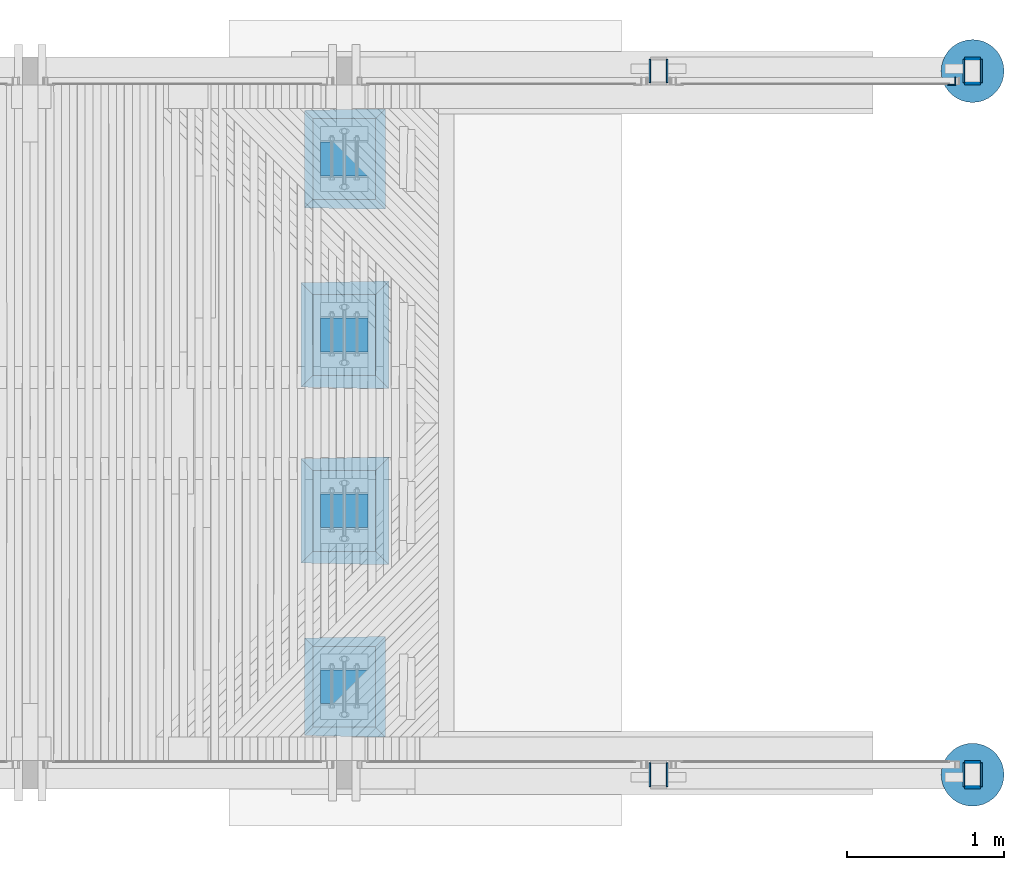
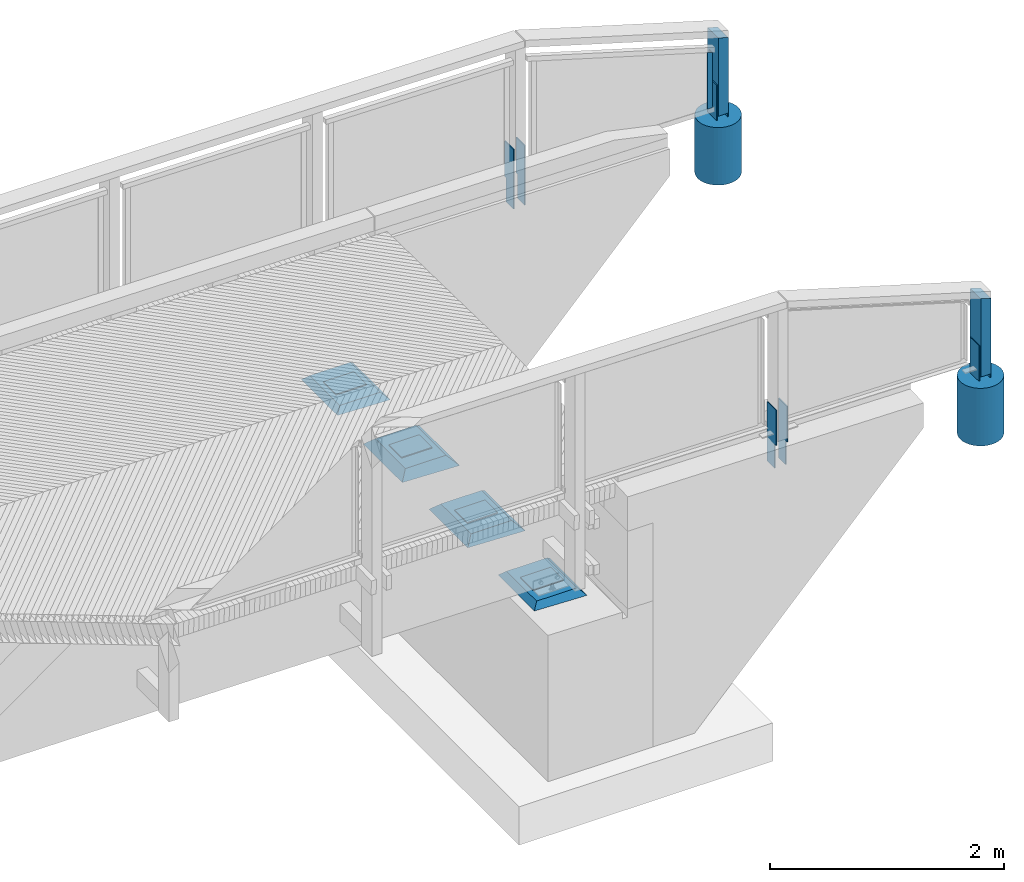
# One storey, part 13 of 65: 21 columns.
"""IFC2X3 building model written with IfcOpenShell, lengths in millimetres."""

from ifc_helpers import new_model, si_unit, frame, origin_with_axes, place, context, subcontext, project, spatial, faceted_brep, material, type_object, element, save


model = new_model("IFC2X3")

# Units and contexts
model_context = context("Model", 3, precision=1e-05, world=origin_with_axes())
body_context = subcontext(model_context, "Body", "Model", "MODEL_VIEW")
ifc_project = project(units=[si_unit("LENGTHUNIT", "METRE", prefix="MILLI"), si_unit("AREAUNIT", "SQUARE_METRE"), si_unit("VOLUMEUNIT", "CUBIC_METRE"), si_unit("MASSUNIT", "GRAM", prefix="KILO"), si_unit("TIMEUNIT", "SECOND"), si_unit("PLANEANGLEUNIT", "RADIAN"), si_unit("SOLIDANGLEUNIT", "STERADIAN"), si_unit("THERMODYNAMICTEMPERATUREUNIT", "DEGREE_CELSIUS"), si_unit("LUMINOUSINTENSITYUNIT", "LUMEN")], contexts=[model_context])

# Site, building, storey
site_placement = place(None, origin_with_axes())
site = spatial("IfcSite", under=ifc_project, at=site_placement, Name="Undefined", CompositionType="ELEMENT")
building_placement = place(site_placement, origin_with_axes())
building = spatial("IfcBuilding", under=site, at=building_placement, Name="Undefined", CompositionType="ELEMENT")
storey_placement = place(building_placement, origin_with_axes())
storey = spatial("IfcBuildingStorey", under=building, at=storey_placement, Name="Undefined", CompositionType="ELEMENT", Elevation=0.0)

# Columns
ifc_material_1 = material(Name="STEEL/AISI316")
column_type_1 = type_object("IfcColumnType", Name="PL150*10", PredefinedType="NOTDEFINED")
for number, where, z_axis, x_axis in (
    (1, (19944.9999998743, 20125.0, 2794.56000000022), (0.0, 1.0, 0.0), (0.0, 0.0, 1.0)),
    (2, (17944.9999998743, 20125.0, 2822.67000000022), (0.0, 1.0, 0.0), (0.0, 0.0, 1.0)),
):
    element("IfcColumn", number, at=place(storey_placement, frame(where, z_axis=z_axis, x_axis=x_axis)), inside=storey, type_object=column_type_1, material=ifc_material_1, Name="KAIDEPYLVÄS", ObjectType="PL150*10", context=body_context, shape_type="Brep", body=[
        faceted_brep([(250.0, 5.0, -50.0), (250.0, -5.0, -50.0), (0.0, -5.0, -50.0), (0.0, 5.0, -50.0), (250.0, 5.0, -75.0), (250.0, -5.0, -75.0), (620.0, -5.0, 75.0), (620.0, -5.0, -75.0), (620.0, 5.0, -75.0), (620.0, 5.0, 75.0), (0.0, 5.0, 75.0), (0.0, -5.0, 75.0)], [[[0, 1, 2, 3]], [[4, 5, 1, 0]], [[6, 7, 8, 9]], [[10, 11, 6, 9]], [[11, 10, 3, 2]], [[7, 6, 11, 2, 1, 5]], [[8, 7, 5, 4]], [[10, 9, 8, 4, 0, 3]]]),
    ])
for number, where, z_axis, x_axis in (
    (3, (19944.9999998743, 24605.0000000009, 2794.56000000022), (0.0, -1.0, 0.0), (0.0, 0.0, 1.0)),
    (4, (17944.9999998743, 24605.0000000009, 2822.67000000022), (0.0, -1.0, 0.0), (0.0, 0.0, 1.0)),
):
    element("IfcColumn", number, at=place(storey_placement, frame(where, z_axis=z_axis, x_axis=x_axis)), inside=storey, type_object=column_type_1, material=ifc_material_1, Name="KAIDEPYLVÄS", ObjectType="PL150*10", context=body_context, shape_type="Brep", body=[
        faceted_brep([(250.0, 5.0, -50.0), (250.0, -5.0, -50.0), (0.0, -5.0, -50.0), (0.0, 5.0, -50.0), (250.0, 5.0, -75.0), (250.0, -5.0, -75.0), (0.0, 5.0, 75.0), (0.0, -5.0, 75.0), (620.0, -5.0, 75.0), (620.0, 5.0, 75.0), (620.0, -5.0, -75.0), (620.0, 5.0, -75.0)], [[[0, 1, 2, 3]], [[4, 5, 1, 0]], [[6, 7, 8, 9]], [[8, 10, 11, 9]], [[11, 10, 5, 4]], [[6, 9, 11, 4, 0, 3]], [[7, 6, 3, 2]], [[10, 8, 7, 2, 1, 5]]]),
    ])
for number, where, z_axis, x_axis in (
    (5, (20054.9999998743, 20125.0, 2794.56000000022), (0.0, 1.0, 0.0), (0.0, 0.0, 1.0)),
    (6, (18054.9999998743, 20125.0, 2822.67000000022), (0.0, 1.0, 0.0), (0.0, 0.0, 1.0)),
):
    element("IfcColumn", number, at=place(storey_placement, frame(where, z_axis=z_axis, x_axis=x_axis)), inside=storey, type_object=column_type_1, material=ifc_material_1, Name="KAIDEPYLVÄS", ObjectType="PL150*10", context=body_context, shape_type="Brep", body=[
        faceted_brep([(250.0, 5.0, -50.0), (250.0, -5.0, -50.0), (0.0, -5.0, -50.0), (0.0, 5.0, -50.0), (250.0, 5.0, -75.0), (250.0, -5.0, -75.0), (620.0, -5.0, 75.0), (620.0, -5.0, -75.0), (620.0, 5.0, -75.0), (620.0, 5.0, 75.0), (0.0, 5.0, 75.0), (0.0, -5.0, 75.0)], [[[0, 1, 2, 3]], [[4, 5, 1, 0]], [[6, 7, 8, 9]], [[10, 11, 6, 9]], [[11, 10, 3, 2]], [[7, 6, 11, 2, 1, 5]], [[8, 7, 5, 4]], [[10, 9, 8, 4, 0, 3]]]),
    ])
for number, where, z_axis, x_axis in (
    (7, (20054.9999998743, 24605.0000000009, 2794.56000000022), (0.0, -1.0, 0.0), (0.0, 0.0, 1.0)),
    (8, (18054.9999998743, 24605.0000000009, 2822.67000000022), (0.0, -1.0, 0.0), (0.0, 0.0, 1.0)),
):
    element("IfcColumn", number, at=place(storey_placement, frame(where, z_axis=z_axis, x_axis=x_axis)), inside=storey, type_object=column_type_1, material=ifc_material_1, Name="KAIDEPYLVÄS", ObjectType="PL150*10", context=body_context, shape_type="Brep", body=[
        faceted_brep([(250.0, 5.0, -50.0), (250.0, -5.0, -50.0), (0.0, -5.0, -50.0), (0.0, 5.0, -50.0), (250.0, 5.0, -75.0), (250.0, -5.0, -75.0), (0.0, 5.0, 75.0), (0.0, -5.0, 75.0), (620.0, -5.0, 75.0), (620.0, 5.0, 75.0), (620.0, -5.0, -75.0), (620.0, 5.0, -75.0)], [[[0, 1, 2, 3]], [[4, 5, 1, 0]], [[6, 7, 8, 9]], [[8, 10, 11, 9]], [[11, 10, 5, 4]], [[6, 9, 11, 4, 0, 3]], [[7, 6, 3, 2]], [[10, 8, 7, 2, 1, 5]]]),
    ])
ifc_material_2 = material(Name="TIMBER/Timber_Undefined")
column_type_2 = type_object("IfcColumnType", Name="180*100", PredefinedType="NOTDEFINED")
column_1_placement = place(storey_placement, frame((19999.9999992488, 24604.9879080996, 3109.68000000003), z_axis=(0.0, -1.0, 0.0), x_axis=(0.0, 0.0, 1.0)))
element("IfcColumn", 9, at=column_1_placement, inside=storey, type_object=column_type_2, material=ifc_material_2, Name="KAIDEPYLVÄS", ObjectType="180*100", context=body_context, shape_type="Brep", body=[
    faceted_brep([(-15.1200000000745, 50.0, -90.0), (-15.1200000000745, 50.0, 90.0), (800.720209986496, 50.0, 90.0), (800.720209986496, 50.0, -90.0), (-15.1200000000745, -50.0, 90.0), (771.050236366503, -50.0, 90.0), (-15.1200000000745, -50.0, -90.0), (771.050236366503, -50.0, -90.0)], [[[0, 1, 2, 3]], [[1, 4, 5, 2]], [[4, 6, 7, 5]], [[6, 0, 3, 7]], [[5, 7, 3, 2]], [[6, 4, 1, 0]]]),
])
column_2_placement = place(storey_placement, frame((19999.9999992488, 20125.0120919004, 3109.68000000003), z_axis=(0.0, 1.0, 0.0), x_axis=(0.0, 0.0, 1.0)))
element("IfcColumn", 10, at=column_2_placement, inside=storey, type_object=column_type_2, material=ifc_material_2, Name="KAIDEPYLVÄS", ObjectType="180*100", context=body_context, shape_type="Brep", body=[
    faceted_brep([(-15.1200000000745, 50.0, -90.0), (-15.1200000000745, 50.0, 90.0), (771.050236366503, 50.0, 90.0), (771.050236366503, 50.0, -90.0), (-15.1200000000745, -50.0, 90.0), (800.720209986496, -50.0, 90.0), (-15.1200000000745, -50.0, -90.0), (800.720209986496, -50.0, -90.0)], [[[0, 1, 2, 3]], [[1, 4, 5, 2]], [[4, 6, 7, 5]], [[6, 0, 3, 7]], [[5, 7, 3, 2]], [[6, 4, 1, 0]]]),
])
ifc_material_3 = material(Name="CONCRETE/Concrete_Undefined")
column_type_3 = type_object("IfcColumnType", Name="D400", PredefinedType="NOTDEFINED")
column_3_placement = place(storey_placement, frame((19999.9999995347, 24604.9858270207, 2444.55999999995), z_axis=(1.0, 0.0, 0.0), x_axis=(0.0, 0.0, 1.0)))
element("IfcColumn", 11, at=column_3_placement, inside=storey, type_object=column_type_3, material=ifc_material_3, Name="COLUMN", ObjectType="D400", context=body_context, shape_type="Brep", body=[
    faceted_brep([(0.0, -200.0, 0.0), (0.0, -196.961550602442, -34.7296355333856), (600.0, -196.961550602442, -34.7296355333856), (600.0, -200.0, 0.0), (0.0, -187.93852415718, -68.4040286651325), (600.0, -187.93852415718, -68.4040286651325), (0.0, -173.205080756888, -100.0), (600.0, -173.205080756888, -100.0), (0.0, -153.208888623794, -128.55752193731), (600.0, -153.208888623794, -128.55752193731), (0.0, -128.55752193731, -153.208888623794), (600.0, -128.55752193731, -153.208888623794), (0.0, -100.0, -173.205080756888), (600.0, -100.0, -173.205080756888), (0.0, -68.4040286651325, -187.93852415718), (600.0, -68.4040286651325, -187.93852415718), (0.0, -34.7296355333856, -196.961550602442), (600.0, -34.7296355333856, -196.961550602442), (0.0, 0.0, -200.0), (600.0, 0.0, -200.0), (0.0, 34.7296355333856, -196.961550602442), (600.0, 34.7296355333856, -196.961550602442), (0.0, 68.4040286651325, -187.93852415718), (600.0, 68.4040286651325, -187.93852415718), (0.0, 100.0, -173.205080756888), (600.0, 100.0, -173.205080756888), (0.0, 128.55752193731, -153.208888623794), (600.0, 128.55752193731, -153.208888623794), (0.0, 153.208888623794, -128.55752193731), (600.0, 153.208888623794, -128.55752193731), (0.0, 173.205080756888, -100.0), (600.0, 173.205080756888, -100.0), (0.0, 187.93852415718, -68.4040286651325), (600.0, 187.93852415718, -68.4040286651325), (0.0, 196.961550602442, -34.7296355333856), (600.0, 196.961550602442, -34.7296355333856), (0.0, 200.0, 0.0), (600.0, 200.0, 0.0), (0.0, 196.961550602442, 34.7296355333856), (600.0, 196.961550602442, 34.7296355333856), (0.0, 187.93852415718, 68.4040286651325), (600.0, 187.93852415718, 68.4040286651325), (0.0, 173.205080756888, 100.0), (600.0, 173.205080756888, 100.0), (0.0, 153.208888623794, 128.55752193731), (600.0, 153.208888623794, 128.55752193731), (0.0, 128.55752193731, 153.208888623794), (600.0, 128.55752193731, 153.208888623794), (0.0, 100.0, 173.205080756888), (600.0, 100.0, 173.205080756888), (0.0, 68.4040286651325, 187.93852415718), (600.0, 68.4040286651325, 187.93852415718), (0.0, 34.7296355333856, 196.961550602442), (600.0, 34.7296355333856, 196.961550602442), (0.0, 0.0, 200.0), (600.0, 0.0, 200.0), (0.0, -34.7296355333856, 196.961550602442), (600.0, -34.7296355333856, 196.961550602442), (0.0, -68.4040286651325, 187.93852415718), (600.0, -68.4040286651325, 187.93852415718), (0.0, -100.0, 173.205080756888), (600.0, -100.0, 173.205080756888), (0.0, -128.55752193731, 153.208888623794), (600.0, -128.55752193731, 153.208888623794), (0.0, -153.208888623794, 128.55752193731), (600.0, -153.208888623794, 128.55752193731), (0.0, -173.205080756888, 100.0), (600.0, -173.205080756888, 100.0), (0.0, -187.93852415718, 68.4040286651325), (600.0, -187.93852415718, 68.4040286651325), (0.0, -196.961550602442, 34.7296355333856), (600.0, -196.961550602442, 34.7296355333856)], [[[0, 1, 2, 3]], [[1, 4, 5, 2]], [[4, 6, 7, 5]], [[6, 8, 9, 7]], [[8, 10, 11, 9]], [[10, 12, 13, 11]], [[12, 14, 15, 13]], [[14, 16, 17, 15]], [[16, 18, 19, 17]], [[18, 20, 21, 19]], [[20, 22, 23, 21]], [[22, 24, 25, 23]], [[24, 26, 27, 25]], [[26, 28, 29, 27]], [[28, 30, 31, 29]], [[30, 32, 33, 31]], [[32, 34, 35, 33]], [[34, 36, 37, 35]], [[36, 38, 39, 37]], [[38, 40, 41, 39]], [[40, 42, 43, 41]], [[42, 44, 45, 43]], [[44, 46, 47, 45]], [[46, 48, 49, 47]], [[48, 50, 51, 49]], [[50, 52, 53, 51]], [[52, 54, 55, 53]], [[54, 56, 57, 55]], [[56, 58, 59, 57]], [[58, 60, 61, 59]], [[60, 62, 63, 61]], [[62, 64, 65, 63]], [[64, 66, 67, 65]], [[66, 68, 69, 67]], [[68, 70, 71, 69]], [[70, 0, 3, 71]], [[5, 7, 9, 11, 13, 15, 17, 19, 21, 23, 25, 27, 29, 31, 33, 35, 37, 39, 41, 43, 45, 47, 49, 51, 53, 55, 57, 59, 61, 63, 65, 67, 69, 71, 3, 2]], [[70, 68, 66, 64, 62, 60, 58, 56, 54, 52, 50, 48, 46, 44, 42, 40, 38, 36, 34, 32, 30, 28, 26, 24, 22, 20, 18, 16, 14, 12, 10, 8, 6, 4, 1, 0]]]),
])
column_4_placement = place(storey_placement, frame((19999.9999995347, 20125.0141729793, 2444.55999999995), z_axis=(1.0, 0.0, 0.0), x_axis=(0.0, 0.0, 1.0)))
element("IfcColumn", 12, at=column_4_placement, inside=storey, type_object=column_type_3, material=ifc_material_3, Name="COLUMN", ObjectType="D400", context=body_context, shape_type="Brep", body=[
    faceted_brep([(0.0, -200.0, 0.0), (0.0, -196.961550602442, -34.7296355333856), (600.0, -196.961550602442, -34.7296355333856), (600.0, -200.0, 0.0), (0.0, -187.93852415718, -68.4040286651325), (600.0, -187.93852415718, -68.4040286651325), (0.0, -173.205080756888, -100.0), (600.0, -173.205080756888, -100.0), (0.0, -153.208888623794, -128.55752193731), (600.0, -153.208888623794, -128.55752193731), (0.0, -128.55752193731, -153.208888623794), (600.0, -128.55752193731, -153.208888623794), (0.0, -100.0, -173.205080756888), (600.0, -100.0, -173.205080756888), (0.0, -68.4040286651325, -187.93852415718), (600.0, -68.4040286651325, -187.93852415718), (0.0, -34.7296355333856, -196.961550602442), (600.0, -34.7296355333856, -196.961550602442), (0.0, 0.0, -200.0), (600.0, 0.0, -200.0), (0.0, 34.7296355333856, -196.961550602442), (600.0, 34.7296355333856, -196.961550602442), (0.0, 68.4040286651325, -187.93852415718), (600.0, 68.4040286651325, -187.93852415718), (0.0, 100.0, -173.205080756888), (600.0, 100.0, -173.205080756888), (0.0, 128.55752193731, -153.208888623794), (600.0, 128.55752193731, -153.208888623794), (0.0, 153.208888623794, -128.55752193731), (600.0, 153.208888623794, -128.55752193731), (0.0, 173.205080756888, -100.0), (600.0, 173.205080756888, -100.0), (0.0, 187.93852415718, -68.4040286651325), (600.0, 187.93852415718, -68.4040286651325), (0.0, 196.961550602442, -34.7296355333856), (600.0, 196.961550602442, -34.7296355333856), (0.0, 200.0, 0.0), (600.0, 200.0, 0.0), (0.0, 196.961550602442, 34.7296355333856), (600.0, 196.961550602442, 34.7296355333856), (0.0, 187.93852415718, 68.4040286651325), (600.0, 187.93852415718, 68.4040286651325), (0.0, 173.205080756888, 100.0), (600.0, 173.205080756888, 100.0), (0.0, 153.208888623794, 128.55752193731), (600.0, 153.208888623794, 128.55752193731), (0.0, 128.55752193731, 153.208888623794), (600.0, 128.55752193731, 153.208888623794), (0.0, 100.0, 173.205080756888), (600.0, 100.0, 173.205080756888), (0.0, 68.4040286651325, 187.93852415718), (600.0, 68.4040286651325, 187.93852415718), (0.0, 34.7296355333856, 196.961550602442), (600.0, 34.7296355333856, 196.961550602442), (0.0, 0.0, 200.0), (600.0, 0.0, 200.0), (0.0, -34.7296355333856, 196.961550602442), (600.0, -34.7296355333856, 196.961550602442), (0.0, -68.4040286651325, 187.93852415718), (600.0, -68.4040286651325, 187.93852415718), (0.0, -100.0, 173.205080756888), (600.0, -100.0, 173.205080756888), (0.0, -128.55752193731, 153.208888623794), (600.0, -128.55752193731, 153.208888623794), (0.0, -153.208888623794, 128.55752193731), (600.0, -153.208888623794, 128.55752193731), (0.0, -173.205080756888, 100.0), (600.0, -173.205080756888, 100.0), (0.0, -187.93852415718, 68.4040286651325), (600.0, -187.93852415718, 68.4040286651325), (0.0, -196.961550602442, 34.7296355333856), (600.0, -196.961550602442, 34.7296355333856)], [[[0, 1, 2, 3]], [[1, 4, 5, 2]], [[4, 6, 7, 5]], [[6, 8, 9, 7]], [[8, 10, 11, 9]], [[10, 12, 13, 11]], [[12, 14, 15, 13]], [[14, 16, 17, 15]], [[16, 18, 19, 17]], [[18, 20, 21, 19]], [[20, 22, 23, 21]], [[22, 24, 25, 23]], [[24, 26, 27, 25]], [[26, 28, 29, 27]], [[28, 30, 31, 29]], [[30, 32, 33, 31]], [[32, 34, 35, 33]], [[34, 36, 37, 35]], [[36, 38, 39, 37]], [[38, 40, 41, 39]], [[40, 42, 43, 41]], [[42, 44, 45, 43]], [[44, 46, 47, 45]], [[46, 48, 49, 47]], [[48, 50, 51, 49]], [[50, 52, 53, 51]], [[52, 54, 55, 53]], [[54, 56, 57, 55]], [[56, 58, 59, 57]], [[58, 60, 61, 59]], [[60, 62, 63, 61]], [[62, 64, 65, 63]], [[64, 66, 67, 65]], [[66, 68, 69, 67]], [[68, 70, 71, 69]], [[70, 0, 3, 71]], [[5, 7, 9, 11, 13, 15, 17, 19, 21, 23, 25, 27, 29, 31, 33, 35, 37, 39, 41, 43, 45, 47, 49, 51, 53, 55, 57, 59, 61, 63, 65, 67, 69, 71, 3, 2]], [[70, 68, 66, 64, 62, 60, 58, 56, 54, 52, 50, 48, 46, 44, 42, 40, 38, 36, 34, 32, 30, 28, 26, 24, 22, 20, 18, 16, 14, 12, 10, 8, 6, 4, 1, 0]]]),
])
ifc_material_4 = material(Name="STEEL/S235JR")
column_type_4 = type_object("IfcColumnType", Name="L50*5", PredefinedType="NOTDEFINED")
column_5_placement = place(storey_placement, frame((19867.5024948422, 24539.9900000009, 3205.30402096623), z_axis=(0.0, 1.0, 0.0), x_axis=(0.0, 0.0, 1.0)))
element("IfcColumn", 13, at=column_5_placement, inside=storey, type_object=column_type_4, material=ifc_material_4, Name="BEAM", ObjectType="L50*5", context=body_context, shape_type="Brep", body=[
    faceted_brep([(0.0, 25.0, -25.0), (0.0, 25.0, 25.0), (575.133453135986, 25.0, 25.0), (575.133453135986, 25.0, -25.0), (0.0, 20.0, 25.0), (576.626039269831, 20.0, 25.0), (0.0, 20.0, -20.0), (576.626039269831, 20.0, -20.0), (0.0, -25.0, -20.0), (590.05931447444, -25.0, -20.0), (0.0, -25.0, -25.0), (590.05931447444, -25.0, -25.0)], [[[0, 1, 2, 3]], [[1, 4, 5, 2]], [[4, 6, 7, 5]], [[6, 8, 9, 7]], [[8, 10, 11, 9]], [[10, 0, 3, 11]], [[5, 7, 9, 11, 3, 2]], [[10, 8, 6, 4, 1, 0]]]),
])
column_type_5 = type_object("IfcColumnType", Name="570*685", PredefinedType="NOTDEFINED")
for number, where, z_axis, x_axis, name in (
    (14, (16000.0, 22925.0000000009, 1922.0), (1.0, 0.0, 0.0), (0.0, 0.0, 1.0), "COLUMN"),
    (15, (16000.0, 21805.0, 1922.0), (1.0, 0.0, 0.0), (0.0, 0.0, 1.0), "COLUMN"),
):
    element("IfcColumn", number, at=place(storey_placement, frame(where, z_axis=z_axis, x_axis=x_axis)), inside=storey, type_object=column_type_5, material=ifc_material_3, Name=name, ObjectType="570*685", context=body_context, shape_type="Brep", body=[
        faceted_brep([(-9.52281374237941, -342.5, 285.0), (75.3299999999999, -257.647186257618, 200.147186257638), (75.3299999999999, 257.647186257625, 200.147186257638), (-9.52281374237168, 342.5, 285.0), (75.3299999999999, -257.647186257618, -200.147186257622), (0.770343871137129, -332.20684238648, -274.706842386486), (0.770343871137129, 332.206842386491, -274.706842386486), (75.3299999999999, 257.647186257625, -200.147186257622), (-9.52281374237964, -342.5, 229.65787209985), (-10.6522449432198, -342.5, 285.0), (-10.6522449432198, 342.5, 285.0), (-9.52281374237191, 342.5, 229.657872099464)], [[[0, 1, 2, 3]], [[4, 5, 6, 7]], [[5, 8, 9, 10, 11, 6]], [[9, 8, 0]], [[10, 9, 0, 3]], [[10, 3, 11]], [[7, 6, 11, 3, 2]], [[4, 7, 2, 1]], [[8, 5, 4, 1, 0]]]),
    ])
column_type_6 = type_object("IfcColumnType", Name="524*639", PredefinedType="NOTDEFINED")
for number, where, z_axis, x_axis, name in (
    (16, (16000.0, 24045.0000000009, 1900.0), (1.0, 0.0, 0.0), (0.0, 0.0, 1.0), "COLUMN"),
    (17, (16000.0, 20685.0, 1900.0), (1.0, 0.0, 0.0), (0.0, 0.0, 1.0), "COLUMN"),
):
    element("IfcColumn", number, at=place(storey_placement, frame(where, z_axis=z_axis, x_axis=x_axis)), inside=storey, type_object=column_type_6, material=ifc_material_3, Name=name, ObjectType="524*639", context=body_context, shape_type="Brep", body=[
        faceted_brep([(13.1046032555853, -319.5, 262.0), (75.3299999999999, -257.274603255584, 199.774603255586), (75.3299999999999, 257.274603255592, 199.774603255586), (13.1046032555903, 319.5, 262.0), (75.3299999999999, -257.274603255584, -199.774603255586), (22.3220922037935, -310.282511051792, -252.782511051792), (22.3220922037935, 310.282511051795, -252.782511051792), (75.3299999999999, 257.274603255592, -199.774603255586), (13.1046032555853, -319.5, 198.87443973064), (11.816326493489, -319.5, 262.0), (11.816326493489, 319.5, 262.0), (13.1046032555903, 319.5, 198.874439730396)], [[[0, 1, 2, 3]], [[4, 5, 6, 7]], [[5, 8, 9, 10, 11, 6]], [[9, 8, 0]], [[10, 9, 0, 3]], [[10, 3, 11]], [[7, 6, 11, 3, 2]], [[4, 7, 2, 1]], [[8, 5, 4, 1, 0]]]),
    ])
ifc_material_5 = material(Name="MISCELLANEOUS/NEOPREENI")
column_type_7 = type_object("IfcColumnType", Name="PL300*215", PredefinedType="NOTDEFINED")
for number, where, z_axis, x_axis, name in (
    (18, (16000.0, 24045.0, 1975.33), (1.0, 0.0, 0.0), (0.0, 0.0, 1.0), "COLUMN"),
    (19, (16000.0, 22925.0, 1997.33), (1.0, 0.0, 0.0), (0.0, 0.0, 1.0), "COLUMN"),
    (20, (16000.0, 21805.0, 1997.33), (1.0, 0.0, 0.0), (0.0, 0.0, 1.0), "COLUMN"),
    (21, (16000.0, 20685.0, 1975.33), (1.0, 0.0, 0.0), (0.0, 0.0, 1.0), "COLUMN"),
):
    element("IfcColumn", number, at=place(storey_placement, frame(where, z_axis=z_axis, x_axis=x_axis)), inside=storey, type_object=column_type_7, material=ifc_material_5, Name=name, ObjectType="PL300*215", context=body_context, shape_type="Brep", body=[
        faceted_brep([(0.0, 107.5, -150.0), (0.0, 107.5, 150.0), (10.0, 107.5, 150.0), (10.0, 107.5, -150.0), (0.0, -107.5, 150.0), (10.0, -107.5, 150.0), (0.0, -107.5, -150.0), (10.0, -107.5, -150.0)], [[[0, 1, 2, 3]], [[1, 4, 5, 2]], [[4, 6, 7, 5]], [[6, 0, 3, 7]], [[5, 7, 3, 2]], [[6, 4, 1, 0]]]),
    ])

save(model, "model.ifc")
